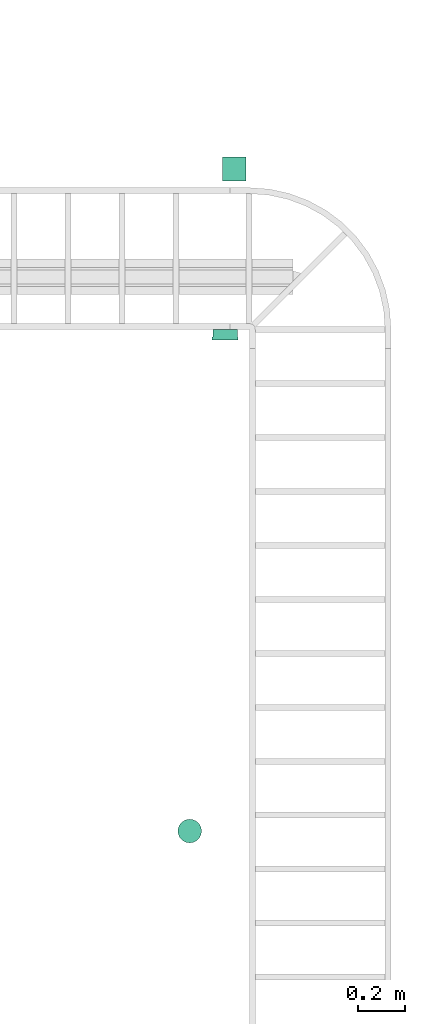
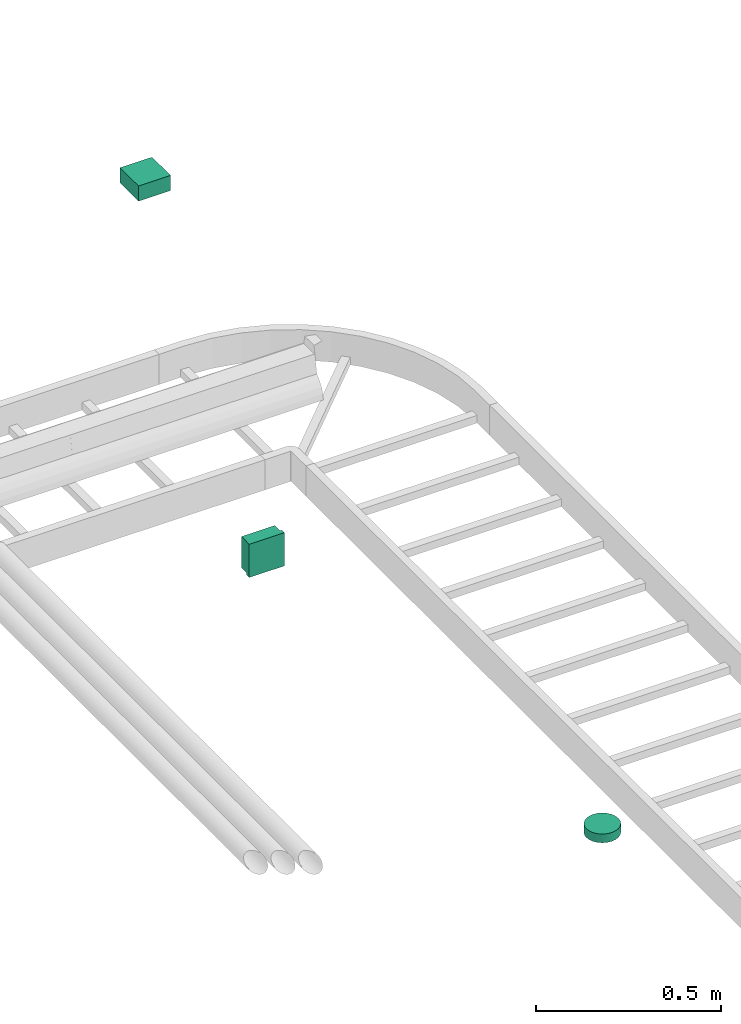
# One storey, part 2 of 14: 1 distribution control element, 1 flow fitting, 1 flow terminal.
"""IFC2X3 building model written with IfcOpenShell, lengths in millimetres."""

from ifc_helpers import new_model, entity, si_unit, converted_unit, derived_unit, direction, frame, origin_with_axes, place, context, subcontext, project, spatial, open_shell, surface_model, source, transform, mapped, type_object, element, save


model = new_model("IFC2X3")

# Units and contexts
model_context = context("Model", 3, precision=0.01, world=frame((0.0, 4.29681676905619e-09, 0.0)), true_north=direction((4.01073788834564e-13, 1.0)))
plan_context = context("Plan", 3, precision=0.01, world=frame((0.0, 4.29681676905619e-09, 0.0)), true_north=direction((4.01073788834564e-13, 1.0)))
body_context = subcontext(model_context, "Body", "Model", "MODEL_VIEW")
ifc_project = project(units=[converted_unit("PLANEANGLEUNIT", "DEGREE", entity("IfcPositiveLengthMeasure", 0.0174532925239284), si_unit("PLANEANGLEUNIT", "RADIAN"), dimensions=[0, 0, 0, 0, 0, 0, 0]), si_unit("AREAUNIT", "SQUARE_METRE"), si_unit("LENGTHUNIT", "METRE", prefix="MILLI"), si_unit("MASSUNIT", "GRAM", prefix="KILO"), si_unit("POWERUNIT", "WATT"), si_unit("PRESSUREUNIT", "PASCAL"), si_unit("FORCEUNIT", "NEWTON", prefix="KILO"), si_unit("ELECTRICVOLTAGEUNIT", "VOLT"), si_unit("ELECTRICCURRENTUNIT", "AMPERE"), si_unit("THERMODYNAMICTEMPERATUREUNIT", "DEGREE_CELSIUS"), si_unit("TIMEUNIT", "SECOND"), si_unit("VOLUMEUNIT", "CUBIC_METRE"), derived_unit("LINEARVELOCITYUNIT", [(si_unit("LENGTHUNIT", "METRE"), 1), (si_unit("TIMEUNIT", "SECOND"), -1)]), derived_unit("VOLUMETRICFLOWRATEUNIT", [(si_unit("VOLUMEUNIT", "CUBIC_METRE"), 1), (si_unit("TIMEUNIT", "SECOND"), -1)]), derived_unit("THERMALTRANSMITTANCEUNIT", [(si_unit("POWERUNIT", "WATT"), 1), (si_unit("THERMODYNAMICTEMPERATUREUNIT", "KELVIN"), -1), (si_unit("AREAUNIT", "SQUARE_METRE"), -1)]), derived_unit("SOUNDPRESSUREUNIT", [(si_unit("PRESSUREUNIT", "PASCAL"), 1)])], contexts=[model_context, plan_context])

# Site, building, storey
site_placement = place(None, frame((0.0, -4.29681676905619e-09, 0.0), z_axis=(0.0, 0.0, 1.0), x_axis=(1.0, 0.0, 0.0)))
site = spatial("IfcSite", under=ifc_project, at=site_placement, Name="ENGM", CompositionType="ELEMENT")
building_placement = place(site_placement, frame((0.0, 4.29681676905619e-09, 0.0), z_axis=(0.0, 0.0, 1.0), x_axis=(1.0, 0.0, 0.0)))
building = spatial("IfcBuilding", under=site, at=building_placement, Name="TH", CompositionType="ELEMENT")
storey_placement = place(building_placement, frame((0.0, 0.0, 205200.0), z_axis=(0.0, 0.0, 1.0), x_axis=(1.0, 0.0, 0.0)))
storey = spatial("IfcBuildingStorey", under=building, at=storey_placement, Name="Nivå D + 1,2 m", CompositionType="ELEMENT", Elevation=205200.0)

# Distribution control element
alarm_type = type_object("IfcAlarmType", Name="Optisk Røykdetektor", PredefinedType="NOTDEFINED")
shared_shape_1 = source(origin_with_axes(), body_context, "Body", "SurfaceModel", [
    surface_model("IfcShellBasedSurfaceModel", [(-25.0, 43.30127, -28.9), (-35.35534, 35.35534, -28.9), (-18.0, 31.17691, -28.9), (-25.45584, 25.45584, -28.9), (-9.31749, 34.77333, -28.9), (-12.94095, 48.29629, -28.9), (0.0, 36.0, -28.9), (0.0, 50.0, -28.9), (-34.77333, 9.31749, -28.9), (-43.30127, 25.0, -28.9), (-48.29629, 12.94095, -28.9), (-36.0, 0.0, -28.9), (-50.0, 0.0, -28.9), (-31.17691, 18.0, -28.9), (9.31749, 34.77333, -28.9), (12.94095, 48.29629, -28.9), (18.0, 31.17691, -28.9), (35.35534, 35.35534, -28.9), (25.0, 43.30127, -28.9), (25.45584, 25.45584, -28.9), (31.17691, 18.0, -28.9), (34.77333, 9.31749, -28.9), (43.30127, 25.0, -28.9), (48.29629, 12.94095, -28.9), (36.0, 0.0, -28.9), (50.0, 0.0, -28.9), (-34.77333, -9.31749, -28.9), (-48.29629, -12.94095, -28.9), (-31.17691, -18.0, -28.9), (-43.30127, -25.0, -28.9), (-25.45584, -25.45584, -28.9), (-35.35534, -35.35534, -28.9), (-18.0, -31.17691, -28.9), (-25.0, -43.30127, -28.9), (-9.31749, -34.77333, -28.9), (-12.94095, -48.29629, -28.9), (0.0, -36.0, -28.9), (0.0, -50.0, -28.9), (43.30127, -25.0, -28.9), (31.17691, -18.0, -28.9), (35.35534, -35.35534, -28.9), (34.77333, -9.31749, -28.9), (48.29629, -12.94095, -28.9), (25.45584, -25.45584, -28.9), (9.31749, -34.77333, -28.9), (12.94095, -48.29629, -28.9), (18.0, -31.17691, -28.9), (25.0, -43.30127, -28.9), (-25.0, -43.30127, -29.1), (-35.35534, -35.35534, -29.1), (-18.0, -31.17691, -29.1), (-25.45584, -25.45584, -29.1), (-9.31749, -34.77333, -29.1), (-12.94095, -48.29629, -29.1), (0.0, -36.0, -29.1), (0.0, -50.0, -29.1), (-34.77333, -9.31749, -29.1), (-43.30127, -25.0, -29.1), (-48.29629, -12.94095, -29.1), (-36.0, 0.0, -29.1), (-50.0, 0.0, -29.1), (-31.17691, -18.0, -29.1), (9.31749, -34.77333, -29.1), (12.94095, -48.29629, -29.1), (18.0, -31.17691, -29.1), (35.35534, -35.35534, -29.1), (25.0, -43.30127, -29.1), (25.45584, -25.45584, -29.1), (31.17691, -18.0, -29.1), (34.77333, -9.31749, -29.1), (43.30127, -25.0, -29.1), (48.29629, -12.94095, -29.1), (36.0, 0.0, -29.1), (50.0, 0.0, -29.1), (-34.77333, 9.31749, -29.1), (-48.29629, 12.94095, -29.1), (-31.17691, 18.0, -29.1), (-43.30127, 25.0, -29.1), (-25.45584, 25.45584, -29.1), (-35.35534, 35.35534, -29.1), (-18.0, 31.17691, -29.1), (-25.0, 43.30127, -29.1), (-9.31749, 34.77333, -29.1), (-12.94095, 48.29629, -29.1), (0.0, 36.0, -29.1), (0.0, 50.0, -29.1), (43.30127, 25.0, -29.1), (31.17691, 18.0, -29.1), (35.35534, 35.35534, -29.1), (34.77333, 9.31749, -29.1), (48.29629, 12.94095, -29.1), (25.45584, 25.45584, -29.1), (9.31749, 34.77333, -29.1), (12.94095, 48.29629, -29.1), (18.0, 31.17691, -29.1), (25.0, 43.30127, -29.1), (6.47048, -24.14815, -44.9), (12.5, -21.65064, -44.9), (17.67767, -17.67767, -44.9), (24.14815, -6.47048, -44.9), (-24.14815, -6.47048, -44.9), (21.65064, -12.5, -44.9), (-21.65064, 12.5, -44.9), (0.0, -25.0, -44.9), (-12.5, -21.65064, -44.9), (-6.47048, -24.14815, -44.9), (-17.67767, -17.67767, -44.9), (-21.65064, -12.5, -44.9), (25.0, 0.0, -44.9), (24.14815, 6.47048, -44.9), (21.65064, 12.5, -44.9), (17.67767, 17.67767, -44.9), (12.5, 21.65064, -44.9), (6.47048, 24.14815, -44.9), (0.0, 25.0, -44.9), (-25.0, 0.0, -44.9), (-24.14815, 6.47048, -44.9), (-12.5, 21.65064, -44.9), (-17.67767, 17.67767, -44.9), (-6.47048, 24.14815, -44.9), (0.0, 25.0, -45.1), (6.47048, 24.14815, -45.1), (12.5, 21.65064, -45.1), (-21.65064, 12.5, -45.1), (17.67767, 17.67767, -45.1), (21.65064, 12.5, -45.1), (24.14815, 6.47048, -45.1), (-12.5, 21.65064, -45.1), (-17.67767, 17.67767, -45.1), (-6.47048, 24.14815, -45.1), (-25.0, 0.0, -45.1), (-24.14815, 6.47048, -45.1), (-24.14815, -6.47048, -45.1), (24.14815, -6.47048, -45.1), (6.47048, -24.14815, -45.1), (21.65064, -12.5, -45.1), (17.67767, -17.67767, -45.1), (12.5, -21.65064, -45.1), (-12.5, -21.65064, -45.1), (-17.67767, -17.67767, -45.1), (-21.65064, -12.5, -45.1), (0.0, -25.0, -45.1), (-6.47048, -24.14815, -45.1), (25.0, 0.0, -45.1), (-1.46739, 34.60682, -29.0), (0.0, 34.8, -29.0), (0.0, 35.0, -29.0), (-34.60682, 1.46739, -29.0), (-35.0, 0.0, -29.0), (-34.8, 0.0, -29.0), (-17.5, 30.31089, -29.0), (-18.5742, 29.23669, -29.0), (-17.4, 30.13768, -29.0), (-24.60732, -24.60732, -29.0), (-18.5742, -29.23669, -29.0), (-29.23669, -18.5742, -29.0), (34.8, 0.0, -29.0), (34.60682, -1.46739, -29.0), (35.0, 0.0, -29.0), (17.4, 30.13768, -29.0), (17.5, 30.31089, -29.0), (16.03261, 30.70407, -29.0), (30.13768, 17.4, -29.0), (30.31089, 17.5, -29.0), (29.23669, 18.5742, -29.0), (34.60682, 1.46739, -29.0), (33.61422, -9.0069, -29.0), (30.70407, -16.03261, -29.0), (-33.61422, -9.0069, -29.0), (-30.70407, -16.03261, -29.0), (-34.60682, -1.46739, -29.0), (-30.13768, -17.4, -29.0), (-30.31089, -17.5, -29.0), (-17.5, -30.31089, -29.0), (-17.4, -30.13768, -29.0), (-1.46739, -34.60682, -29.0), (0.0, -35.0, -29.0), (0.0, -34.8, -29.0), (-16.03261, -30.70407, -29.0), (-9.0069, -33.61422, -29.0), (1.46739, -34.60682, -29.0), (30.13768, -17.4, -29.0), (29.23669, -18.5742, -29.0), (30.31089, -17.5, -29.0), (24.60732, -24.60732, -29.0), (18.5742, -29.23669, -29.0), (9.0069, -33.61422, -29.0), (16.03261, -30.70407, -29.0), (-30.13768, 17.4, -29.0), (-30.31089, 17.5, -29.0), (-30.70407, 16.03261, -29.0), (17.4, -30.13768, -29.0), (17.5, -30.31089, -29.0), (-33.61422, 9.0069, -29.0), (-29.23669, 18.5742, -29.0), (-24.60732, 24.60732, -29.0), (-16.03261, 30.70407, -29.0), (-9.0069, 33.61422, -29.0), (1.46739, 34.60682, -29.0), (9.0069, 33.61422, -29.0), (18.5742, 29.23669, -29.0), (24.60732, 24.60732, -29.0), (30.70407, 16.03261, -29.0), (33.61422, 9.0069, -29.0), (23.00389, 18.55381, -38.25), (14.9, 25.80756, -38.25), (21.07178, 21.07178, -38.25), (29.66376, 1.03484, -38.25), (30.0, 0.0, -38.25), (29.8, 0.0, -38.25), (24.27051, 17.63356, -38.25), (24.68215, 16.36666, -38.25), (10.52665, 27.61906, -38.25), (28.78459, 7.71281, -38.25), (-10.52665, 27.61906, -38.25), (-23.00389, 18.55381, -38.25), (-14.9, 25.80756, -38.25), (8.32335, 28.5317, -38.25), (0.0, 29.8, -38.25), (7.71281, 28.78459, -38.25), (-8.32335, 28.5317, -38.25), (-24.68215, 16.36666, -38.25), (-28.78459, 7.71281, -38.25), (-25.80756, 14.9, -38.25), (-9.27051, 28.5317, -38.25), (-29.66376, 1.03484, -38.25), (-29.8, 0.0, -38.25), (-30.0, 0.0, -38.25), (-28.78459, -7.71281, -38.25), (-24.68215, -16.36666, -38.25), (-25.80756, -14.9, -38.25), (29.66376, -1.03484, -38.25), (-7.71281, 28.78459, -38.25), (25.80756, 14.9, -38.25), (14.9, -25.80756, -38.25), (10.52665, -27.61906, -38.25), (23.00389, -18.55381, -38.25), (28.78459, -7.71281, -38.25), (24.68215, -16.36666, -38.25), (0.0, -29.8, -38.25), (-7.71281, -28.78459, -38.25), (-8.32335, -28.5317, -38.25), (8.32335, -28.5317, -38.25), (9.27051, 28.5317, -38.25), (-29.66376, -1.03484, -38.25), (21.07178, -21.07178, -38.25), (-23.00389, -18.55381, -38.25), (-24.27051, -17.63356, -38.25), (-9.27051, -28.5317, -38.25), (-10.52665, -27.61906, -38.25), (-21.07178, -21.07178, -38.25), (-14.9, -25.80756, -38.25), (9.27051, -28.5317, -38.25), (7.71281, -28.78459, -38.25), (24.27051, -17.63356, -38.25), (25.80756, -14.9, -38.25), (-21.07178, 21.07178, -38.25), (-24.27051, 17.63356, -38.25), (33.28589, -6.39713, -29.0), (27.13526, -8.81678, -38.25), (-16.77051, -23.08263, -38.25), (-23.90544, -23.90544, -29.0), (-27.13526, -8.81678, -38.25), (-33.28589, -6.39713, -29.0), (16.77051, -23.08263, -38.25), (8.75, -32.65544, -29.0), (0.0, -28.5317, -38.25), (23.90544, -23.90544, -29.0), (-8.75, -32.65544, -29.0), (-33.28589, 6.39713, -29.0), (-27.13526, 8.81678, -38.25), (16.77051, 23.08263, -38.25), (23.90544, 23.90544, -29.0), (27.13526, 8.81678, -38.25), (33.28589, 6.39713, -29.0), (-16.77051, 23.08263, -38.25), (-8.75, 32.65544, -29.0), (0.0, 28.5317, -38.25), (-23.90544, 23.90544, -29.0), (8.75, 32.65544, -29.0), (12.4, 21.47743, -45.0), (17.53625, 17.53625, -45.0), (19.07577, 15.5299, -45.0), (20.22543, 14.69463, -45.0), (20.59905, 13.54472, -45.0), (24.66376, 1.03484, -45.0), (25.0, 0.0, -45.0), (24.8, 0.0, -45.0), (8.88673, 22.93267, -45.0), (23.95496, 6.41871, -45.0), (-8.88673, 22.93267, -45.0), (-19.07577, 15.5299, -45.0), (-12.4, 21.47743, -45.0), (6.84976, 23.77641, -45.0), (0.0, 24.8, -45.0), (6.41871, 23.95496, -45.0), (-7.72542, 23.77641, -45.0), (-6.84976, 23.77641, -45.0), (-21.47743, 12.4, -45.0), (-20.59905, 13.54472, -45.0), (-23.95496, 6.41871, -45.0), (-25.0, 0.0, -45.0), (-24.66376, 1.03484, -45.0), (-24.8, 0.0, -45.0), (-23.95496, -6.41871, -45.0), (-20.59905, -13.54472, -45.0), (-21.47743, -12.4, -45.0), (-6.41871, 23.95496, -45.0), (24.66376, -1.03484, -45.0), (21.47743, 12.4, -45.0), (12.4, -21.47743, -45.0), (8.88673, -22.93267, -45.0), (19.07577, -15.5299, -45.0), (23.95496, -6.41871, -45.0), (20.59905, -13.54472, -45.0), (0.0, -24.8, -45.0), (-6.41871, -23.95496, -45.0), (-6.84976, -23.77641, -45.0), (7.72542, -23.77641, -45.0), (6.84976, -23.77641, -45.0), (7.72542, 23.77641, -45.0), (-24.66376, -1.03484, -45.0), (17.53625, -17.53625, -45.0), (-20.22543, -14.69463, -45.0), (-19.07577, -15.5299, -45.0), (-8.88673, -22.93267, -45.0), (-7.72542, -23.77641, -45.0), (-17.53625, -17.53625, -45.0), (-12.4, -21.47743, -45.0), (6.41871, -23.95496, -45.0), (20.22543, -14.69463, -45.0), (21.47743, -12.4, -45.0), (-17.53625, 17.53625, -45.0), (-20.22543, 14.69463, -45.0), (-22.61271, -7.34732, -45.0), (-13.97542, -19.23552, -45.0), (0.0, -23.77641, -45.0), (21.83768, -9.73262, -45.0), (13.97542, -19.23552, -45.0), (23.41884, -4.86631, -45.0), (22.61271, 7.34732, -45.0), (13.97542, 19.23552, -45.0), (0.0, 23.77641, -45.0), (-21.83768, 9.73262, -45.0), (-13.97542, 19.23552, -45.0), (-23.41884, 4.86631, -45.0), (12.94095, -48.29629, 0.0), (25.0, -43.30127, 0.0), (35.35534, -35.35534, 0.0), (48.29629, -12.94095, 0.0), (-48.29629, -12.94095, 0.0), (43.30127, -25.0, 0.0), (-43.30127, 25.0, 0.0), (0.0, -50.0, 0.0), (-25.0, -43.30127, 0.0), (-12.94095, -48.29629, 0.0), (-35.35534, -35.35534, 0.0), (-43.30127, -25.0, 0.0), (50.0, 0.0, 0.0), (48.29629, 12.94095, 0.0), (43.30127, 25.0, 0.0), (35.35534, 35.35534, 0.0), (25.0, 43.30127, 0.0), (12.94095, 48.29629, 0.0), (0.0, 50.0, 0.0), (-50.0, 0.0, 0.0), (-48.29629, 12.94095, 0.0), (-25.0, 43.30127, 0.0), (-35.35534, 35.35534, 0.0), (-12.94095, 48.29629, 0.0), (0.0, 50.0, -29.0), (12.94095, 48.29629, -29.0), (25.0, 43.30127, -29.0), (-43.30127, 25.0, -29.0), (35.35534, 35.35534, -29.0), (43.30127, 25.0, -29.0), (48.29629, 12.94095, -29.0), (-25.0, 43.30127, -29.0), (-35.35534, 35.35534, -29.0), (-12.94095, 48.29629, -29.0), (-50.0, 0.0, -29.0), (-48.29629, 12.94095, -29.0), (-48.29629, -12.94095, -29.0), (48.29629, -12.94095, -29.0), (12.94095, -48.29629, -29.0), (43.30127, -25.0, -29.0), (35.35534, -35.35534, -29.0), (25.0, -43.30127, -29.0), (-25.0, -43.30127, -29.0), (-35.35534, -35.35534, -29.0), (-43.30127, -25.0, -29.0), (0.0, -50.0, -29.0), (-12.94095, -48.29629, -29.0), (50.0, 0.0, -29.0)], [open_shell([[[0, 1, 2]], [[2, 1, 3]], [[0, 2, 4]], [[5, 4, 6]], [[4, 5, 0]], [[5, 6, 7]], [[8, 9, 10]], [[11, 10, 12]], [[8, 10, 11]], [[13, 3, 9]], [[8, 13, 9]], [[9, 3, 1]], [[7, 14, 15]], [[14, 7, 6]], [[15, 14, 16]], [[17, 18, 19]], [[16, 18, 15]], [[19, 18, 16]], [[20, 21, 22]], [[20, 22, 17]], [[21, 23, 22]], [[23, 21, 24]], [[23, 24, 25]], [[20, 17, 19]], [[26, 12, 27]], [[28, 27, 29]], [[28, 26, 27]], [[30, 28, 29]], [[29, 31, 30]], [[32, 31, 33]], [[31, 32, 30]], [[32, 33, 34]], [[34, 35, 36]], [[35, 34, 33]], [[36, 35, 37]], [[38, 39, 40]], [[41, 39, 42]], [[41, 42, 25]], [[42, 39, 38]], [[39, 43, 40]], [[25, 24, 41]], [[44, 37, 45]], [[37, 44, 36]], [[44, 45, 46]], [[47, 40, 43]], [[47, 46, 45]], [[47, 43, 46]], [[26, 11, 12]], [[48, 49, 50]], [[50, 49, 51]], [[48, 50, 52]], [[53, 52, 54]], [[52, 53, 48]], [[53, 54, 55]], [[56, 57, 58]], [[59, 58, 60]], [[56, 58, 59]], [[61, 51, 57]], [[56, 61, 57]], [[57, 51, 49]], [[55, 62, 63]], [[62, 55, 54]], [[63, 62, 64]], [[65, 66, 67]], [[64, 66, 63]], [[67, 66, 64]], [[68, 69, 70]], [[68, 70, 65]], [[69, 71, 70]], [[71, 69, 72]], [[71, 72, 73]], [[68, 65, 67]], [[74, 60, 75]], [[76, 75, 77]], [[76, 74, 75]], [[78, 76, 77]], [[77, 79, 78]], [[80, 79, 81]], [[79, 80, 78]], [[80, 81, 82]], [[82, 83, 84]], [[83, 82, 81]], [[84, 83, 85]], [[86, 87, 88]], [[89, 87, 90]], [[89, 90, 73]], [[90, 87, 86]], [[87, 91, 88]], [[73, 72, 89]], [[92, 85, 93]], [[85, 92, 84]], [[92, 93, 94]], [[95, 88, 91]], [[95, 94, 93]], [[95, 91, 94]], [[74, 59, 60]], [[11, 59, 8]], [[8, 74, 13]], [[2, 3, 78]], [[76, 3, 13]], [[4, 2, 80]], [[74, 76, 13]], [[8, 59, 74]], [[84, 6, 82]], [[4, 80, 82]], [[80, 2, 78]], [[3, 76, 78]], [[4, 82, 6]], [[14, 92, 16]], [[16, 94, 19]], [[21, 20, 87]], [[91, 20, 19]], [[24, 21, 89]], [[92, 94, 16]], [[14, 84, 92]], [[21, 87, 89]], [[87, 20, 91]], [[19, 94, 91]], [[24, 89, 72]], [[6, 84, 14]], [[24, 72, 41]], [[41, 69, 39]], [[46, 43, 67]], [[68, 43, 39]], [[44, 46, 64]], [[69, 68, 39]], [[41, 72, 69]], [[54, 36, 62]], [[44, 64, 62]], [[64, 46, 67]], [[43, 68, 67]], [[44, 62, 36]], [[34, 52, 32]], [[32, 50, 30]], [[26, 28, 61]], [[51, 28, 30]], [[11, 26, 56]], [[52, 50, 32]], [[34, 54, 52]], [[26, 61, 56]], [[61, 28, 51]], [[30, 50, 51]], [[11, 56, 59]], [[36, 54, 34]], [[58, 27, 60]], [[57, 29, 58]], [[33, 49, 48]], [[57, 49, 31]], [[35, 48, 53]], [[58, 29, 27]], [[27, 12, 60]], [[35, 33, 48]], [[31, 49, 33]], [[31, 29, 57]], [[37, 35, 53]], [[53, 55, 37]], [[63, 45, 55]], [[66, 47, 63]], [[38, 65, 70]], [[66, 65, 40]], [[42, 70, 71]], [[66, 40, 47]], [[47, 45, 63]], [[25, 42, 71]], [[38, 70, 42]], [[38, 40, 65]], [[73, 25, 71]], [[55, 45, 37]], [[90, 23, 73]], [[86, 22, 90]], [[18, 88, 95]], [[86, 88, 17]], [[15, 95, 93]], [[90, 22, 23]], [[23, 25, 73]], [[15, 18, 95]], [[17, 88, 18]], [[17, 22, 86]], [[7, 15, 93]], [[93, 85, 7]], [[83, 5, 85]], [[81, 0, 83]], [[9, 79, 77]], [[81, 79, 1]], [[10, 77, 75]], [[81, 1, 0]], [[0, 5, 83]], [[12, 10, 75]], [[9, 77, 10]], [[9, 1, 79]], [[60, 12, 75]], [[85, 5, 7]], [[96, 97, 98]], [[96, 98, 99]], [[96, 99, 100]], [[99, 98, 101]], [[102, 100, 99]], [[103, 104, 105]], [[103, 96, 104]], [[106, 100, 107]], [[106, 104, 96]], [[100, 106, 96]], [[99, 108, 102]], [[109, 110, 111]], [[109, 111, 112]], [[112, 113, 114]], [[109, 112, 102]], [[102, 112, 114]], [[115, 102, 116]], [[100, 102, 115]], [[102, 117, 118]], [[117, 102, 119]], [[114, 119, 102]], [[102, 108, 109]], [[120, 121, 122]], [[123, 120, 122]], [[124, 125, 126]], [[124, 126, 122]], [[123, 122, 126]], [[127, 123, 128]], [[123, 127, 129]], [[123, 130, 131]], [[123, 129, 120]], [[123, 132, 130]], [[123, 126, 133]], [[132, 123, 133]], [[134, 133, 135]], [[136, 137, 134]], [[136, 134, 135]], [[138, 133, 134]], [[132, 139, 140]], [[132, 133, 139]], [[138, 141, 142]], [[139, 133, 138]], [[134, 141, 138]], [[133, 126, 143]], [[132, 100, 130]], [[140, 107, 132]], [[104, 139, 138]], [[140, 139, 106]], [[105, 138, 142]], [[132, 107, 100]], [[100, 115, 130]], [[105, 104, 138]], [[106, 139, 104]], [[106, 107, 140]], [[103, 105, 142]], [[142, 141, 103]], [[134, 96, 141]], [[137, 97, 134]], [[101, 136, 135]], [[137, 136, 98]], [[99, 135, 133]], [[137, 98, 97]], [[97, 96, 134]], [[108, 99, 133]], [[101, 135, 99]], [[101, 98, 136]], [[143, 108, 133]], [[141, 96, 103]], [[126, 109, 143]], [[125, 110, 126]], [[112, 124, 122]], [[125, 124, 111]], [[113, 122, 121]], [[126, 110, 109]], [[109, 108, 143]], [[113, 112, 122]], [[111, 124, 112]], [[111, 110, 125]], [[114, 113, 121]], [[121, 120, 114]], [[129, 119, 120]], [[127, 117, 129]], [[102, 128, 123]], [[127, 128, 118]], [[116, 123, 131]], [[127, 118, 117]], [[117, 119, 129]], [[115, 116, 131]], [[102, 123, 116]], [[102, 118, 128]], [[130, 115, 131]], [[120, 119, 114]], [[144, 145, 146]], [[147, 148, 149]], [[150, 151, 152]], [[153, 154, 155]], [[156, 157, 158]], [[159, 160, 161]], [[162, 163, 164]], [[156, 158, 165]], [[166, 157, 167]], [[168, 169, 170]], [[170, 149, 148]], [[171, 169, 172]], [[173, 174, 154]], [[175, 176, 177]], [[174, 173, 178]], [[155, 171, 172]], [[179, 175, 178]], [[180, 177, 176]], [[181, 182, 183]], [[181, 183, 167]], [[184, 182, 185]], [[186, 187, 180]], [[188, 189, 190]], [[191, 192, 185]], [[191, 187, 192]], [[193, 147, 190]], [[188, 194, 189]], [[195, 194, 151]], [[152, 196, 150]], [[197, 196, 144]], [[145, 198, 146]], [[199, 198, 161]], [[159, 200, 160]], [[201, 200, 164]], [[162, 202, 163]], [[203, 202, 165]], [[204, 205, 206]], [[207, 208, 209]], [[204, 210, 211]], [[205, 204, 212]], [[213, 207, 211]], [[214, 215, 216]], [[217, 218, 219]], [[218, 217, 220]], [[221, 222, 223]], [[220, 214, 224]], [[225, 226, 227]], [[228, 229, 230]], [[209, 208, 231]], [[218, 220, 232]], [[213, 211, 233]], [[234, 235, 236]], [[237, 238, 231]], [[239, 240, 241]], [[241, 242, 239]], [[243, 212, 217]], [[227, 226, 244]], [[234, 236, 245]], [[229, 246, 247]], [[241, 248, 249]], [[250, 246, 251]], [[228, 244, 229]], [[235, 252, 242]], [[239, 242, 253]], [[236, 238, 254]], [[238, 237, 255]], [[251, 246, 249]], [[216, 215, 256]], [[215, 221, 257]], [[222, 221, 225]], [[208, 158, 258]], [[183, 259, 258]], [[260, 261, 247]], [[172, 262, 247]], [[263, 227, 262]], [[192, 252, 264]], [[260, 248, 173]], [[261, 260, 173]], [[252, 265, 266]], [[227, 263, 148]], [[172, 263, 262]], [[258, 259, 208]], [[254, 267, 264]], [[268, 173, 248]], [[252, 192, 265]], [[192, 264, 267]], [[267, 254, 183]], [[259, 183, 254]], [[268, 266, 176]], [[265, 176, 266]], [[248, 266, 268]], [[172, 247, 261]], [[227, 148, 269]], [[189, 270, 269]], [[271, 272, 210]], [[163, 273, 210]], [[274, 208, 273]], [[150, 224, 275]], [[271, 243, 160]], [[272, 271, 160]], [[224, 276, 277]], [[208, 274, 158]], [[163, 274, 273]], [[269, 270, 227]], [[257, 278, 275]], [[279, 160, 243]], [[224, 150, 276]], [[150, 275, 278]], [[278, 257, 189]], [[270, 189, 257]], [[279, 277, 146]], [[276, 146, 277]], [[243, 277, 279]], [[163, 210, 272]], [[171, 230, 228]], [[168, 228, 226]], [[179, 240, 251]], [[174, 251, 250]], [[153, 250, 230]], [[168, 171, 228]], [[226, 149, 168]], [[251, 174, 179]], [[174, 250, 153]], [[230, 171, 153]], [[240, 179, 177]], [[177, 239, 240]], [[184, 245, 234]], [[191, 234, 253]], [[156, 209, 237]], [[166, 237, 255]], [[181, 255, 245]], [[239, 186, 253]], [[186, 191, 253]], [[177, 186, 239]], [[184, 181, 245]], [[191, 184, 234]], [[181, 166, 255]], [[166, 156, 237]], [[162, 233, 213]], [[203, 213, 209]], [[199, 219, 205]], [[159, 205, 206]], [[201, 206, 233]], [[203, 162, 213]], [[209, 156, 203]], [[205, 159, 199]], [[159, 206, 201]], [[233, 162, 201]], [[219, 199, 145]], [[145, 218, 219]], [[195, 256, 216]], [[152, 216, 232]], [[149, 226, 222]], [[193, 222, 223]], [[188, 223, 256]], [[218, 197, 232]], [[197, 152, 232]], [[145, 197, 218]], [[195, 188, 256]], [[152, 195, 216]], [[188, 193, 223]], [[193, 149, 222]], [[215, 216, 256]], [[221, 222, 225]], [[225, 227, 226]], [[257, 221, 215]], [[216, 215, 214]], [[212, 204, 205]], [[220, 218, 232]], [[218, 220, 217]], [[217, 212, 243]], [[233, 211, 213]], [[208, 207, 209]], [[237, 238, 255]], [[252, 235, 242]], [[218, 217, 219]], [[227, 244, 226]], [[222, 221, 223]], [[228, 229, 244]], [[239, 253, 242]], [[246, 251, 249]], [[249, 248, 241]], [[231, 238, 237]], [[208, 209, 231]], [[251, 246, 250]], [[254, 238, 236]], [[236, 234, 245]], [[214, 220, 224]], [[242, 241, 239]], [[239, 241, 240]], [[246, 229, 247]], [[230, 229, 228]], [[234, 236, 235]], [[205, 204, 206]], [[204, 211, 210]], [[213, 211, 207]], [[280, 281, 282]], [[282, 283, 284]], [[285, 286, 287]], [[280, 282, 288]], [[289, 285, 284]], [[290, 291, 292]], [[293, 294, 295]], [[290, 296, 297]], [[294, 293, 297]], [[298, 299, 300]], [[301, 302, 303]], [[304, 305, 306]], [[294, 297, 307]], [[308, 287, 286]], [[289, 284, 309]], [[310, 311, 312]], [[313, 314, 308]], [[315, 316, 317]], [[311, 318, 319]], [[293, 320, 288]], [[301, 303, 321]], [[310, 312, 322]], [[323, 305, 324]], [[325, 317, 326]], [[327, 324, 328]], [[304, 321, 305]], [[317, 319, 315]], [[315, 319, 329]], [[312, 314, 330]], [[331, 314, 313]], [[328, 324, 325]], [[292, 291, 332]], [[291, 299, 333]], [[300, 299, 302]], [[262, 301, 334]], [[334, 323, 247]], [[248, 335, 326]], [[301, 262, 227]], [[334, 247, 262]], [[260, 323, 335]], [[266, 248, 326]], [[336, 252, 266]], [[252, 336, 318]], [[323, 260, 247]], [[248, 260, 335]], [[254, 337, 259]], [[318, 264, 252]], [[338, 254, 264]], [[339, 286, 208]], [[264, 318, 338]], [[259, 339, 208]], [[338, 330, 254]], [[266, 326, 336]], [[259, 337, 339]], [[337, 254, 330]], [[273, 286, 340]], [[340, 283, 210]], [[243, 341, 320]], [[286, 273, 208]], [[340, 210, 273]], [[271, 283, 341]], [[277, 243, 320]], [[342, 224, 277]], [[224, 342, 296]], [[283, 271, 210]], [[243, 271, 341]], [[257, 343, 270]], [[296, 275, 224]], [[344, 257, 275]], [[345, 301, 227]], [[275, 296, 344]], [[270, 345, 227]], [[344, 333, 257]], [[277, 320, 342]], [[270, 343, 345]], [[343, 257, 333]], [[230, 306, 304]], [[228, 304, 303]], [[240, 316, 328]], [[251, 328, 327]], [[250, 327, 306]], [[228, 230, 304]], [[303, 226, 228]], [[328, 251, 240]], [[251, 327, 250]], [[306, 230, 250]], [[316, 240, 239]], [[239, 315, 316]], [[245, 322, 310]], [[234, 310, 329]], [[209, 287, 313]], [[237, 313, 331]], [[255, 331, 322]], [[315, 253, 329]], [[253, 234, 329]], [[239, 253, 315]], [[255, 322, 245]], [[234, 245, 310]], [[331, 255, 237]], [[237, 209, 313]], [[233, 309, 289]], [[213, 289, 287]], [[219, 295, 280]], [[205, 280, 281]], [[206, 281, 309]], [[213, 233, 289]], [[287, 209, 213]], [[280, 205, 219]], [[205, 281, 206]], [[309, 233, 206]], [[295, 219, 218]], [[218, 294, 295]], [[256, 332, 292]], [[216, 292, 307]], [[226, 303, 300]], [[222, 300, 298]], [[223, 298, 332]], [[294, 232, 307]], [[232, 216, 307]], [[218, 232, 294]], [[223, 332, 256]], [[216, 256, 292]], [[298, 223, 222]], [[222, 226, 300]], [[346, 347, 348]], [[346, 348, 349]], [[346, 349, 350]], [[349, 348, 351]], [[352, 350, 349]], [[353, 354, 355]], [[353, 346, 354]], [[356, 350, 357]], [[356, 354, 346]], [[350, 356, 346]], [[349, 358, 352]], [[359, 360, 361]], [[359, 361, 362]], [[362, 363, 364]], [[359, 362, 352]], [[352, 362, 364]], [[365, 352, 366]], [[350, 352, 365]], [[352, 367, 368]], [[367, 352, 369]], [[364, 369, 352]], [[352, 358, 359]], [[370, 371, 372]], [[373, 370, 372]], [[374, 375, 376]], [[374, 376, 372]], [[373, 372, 376]], [[377, 373, 378]], [[373, 377, 379]], [[373, 380, 381]], [[373, 379, 370]], [[373, 382, 380]], [[373, 376, 383]], [[382, 373, 383]], [[384, 383, 385]], [[386, 387, 384]], [[386, 384, 385]], [[388, 383, 384]], [[382, 389, 390]], [[382, 383, 389]], [[388, 391, 392]], [[389, 383, 388]], [[384, 391, 388]], [[383, 376, 393]], [[382, 350, 380]], [[390, 357, 382]], [[354, 389, 388]], [[390, 389, 356]], [[355, 388, 392]], [[382, 357, 350]], [[350, 365, 380]], [[355, 354, 388]], [[356, 389, 354]], [[356, 357, 390]], [[353, 355, 392]], [[392, 391, 353]], [[384, 346, 391]], [[387, 347, 384]], [[351, 386, 385]], [[387, 386, 348]], [[349, 385, 383]], [[387, 348, 347]], [[347, 346, 384]], [[358, 349, 383]], [[351, 385, 349]], [[351, 348, 386]], [[393, 358, 383]], [[391, 346, 353]], [[376, 359, 393]], [[375, 360, 376]], [[362, 374, 372]], [[375, 374, 361]], [[363, 372, 371]], [[376, 360, 359]], [[359, 358, 393]], [[363, 362, 372]], [[361, 374, 362]], [[361, 360, 375]], [[364, 363, 371]], [[371, 370, 364]], [[369, 370, 379]], [[367, 379, 377]], [[352, 373, 381]], [[366, 381, 380]], [[379, 367, 369]], [[367, 377, 378]], [[367, 378, 368]], [[368, 378, 352]], [[352, 378, 373]], [[352, 381, 366]], [[380, 365, 366]], [[370, 369, 364]]])]),
])
distribution_control_element_placement = place(storey_placement, frame((900252.56798, 478750.74751, 4540.0), z_axis=(0.0, 0.0, 1.0), x_axis=(1.0, 0.0, 0.0)))
element("IfcDistributionControlElement", 1, at=distribution_control_element_placement, inside=storey, type_object=alarm_type, Name="Optisk røykdetektor", context=body_context, shape_type="MappedRepresentation", body=[
    mapped(shared_shape_1, transform((0.0, 0.0, 0.0), scale=1.0)),
])

# Flow fitting
junction_box_type = type_object("IfcJunctionBoxType", Name="Koblingsboks åpen", PredefinedType="NOTDEFINED")
shared_shape_2 = source(origin_with_axes(), body_context, "Body", "SurfaceModel", [
    surface_model("IfcShellBasedSurfaceModel", [(-55.0, 46.0, 55.0), (-55.0, 32.2, 55.0), (55.0, 32.2, 55.0), (55.0, 46.0, 55.0), (55.0, 46.0, -55.0), (55.0, 32.2, -55.0), (-55.0, 32.2, -55.0), (-55.0, 46.0, -55.0), (-52.0, 32.2, 52.0), (-52.0, 0.0, 52.0), (52.0, 0.0, 52.0), (52.0, 32.2, 52.0), (52.0, 32.2, -52.0), (52.0, 0.0, -52.0), (-52.0, 0.0, -52.0), (-52.0, 32.2, -52.0)], [open_shell([[[0, 1, 2]], [[2, 3, 0]], [[4, 5, 6]], [[6, 7, 4]], [[2, 1, 6]], [[6, 5, 2]], [[3, 2, 5]], [[5, 4, 3]], [[0, 3, 4]], [[4, 7, 0]], [[1, 0, 7]], [[7, 6, 1]], [[8, 9, 10]], [[10, 11, 8]], [[12, 13, 14]], [[14, 15, 12]], [[10, 9, 14]], [[14, 13, 10]], [[11, 10, 13]], [[13, 12, 11]], [[8, 11, 12]], [[12, 15, 8]], [[9, 8, 15]], [[15, 14, 9]]])]),
])
flow_fitting_placement = place(storey_placement, frame((900402.39713, 480875.0, 4115.0), z_axis=(0.0, 0.0, 1.0), x_axis=(-1.0, 0.0, 0.0)))
element("IfcFlowFitting", 2, at=flow_fitting_placement, inside=storey, type_object=junction_box_type, Name="Koblingsboks åpen", context=body_context, shape_type="MappedRepresentation", body=[
    mapped(shared_shape_2, transform((0.0, 0.0, 0.0), scale=1.0)),
])

# Flow terminal
electric_appliance_type = type_object("IfcElectricApplianceType", Name="Motorstyrt ventil", PredefinedType="NOTDEFINED")
shared_shape_3 = source(origin_with_axes(), body_context, "Body", "SurfaceModel", [
    surface_model("IfcShellBasedSurfaceModel", [(50.0, -50.0, 50.0), (50.0, 50.0, 50.0), (-50.0, 50.0, 50.0), (-50.0, -50.0, 50.0), (-50.0, -50.0, 0.0), (-50.0, 50.0, 0.0), (50.0, 50.0, 0.0), (50.0, -50.0, 0.0)], [open_shell([[[0, 1, 2]], [[2, 3, 0]], [[4, 5, 6]], [[6, 7, 4]], [[2, 1, 6]], [[6, 5, 2]], [[3, 2, 5]], [[5, 4, 3]], [[0, 3, 4]], [[4, 7, 0]], [[1, 0, 7]], [[7, 6, 1]]])]),
])
flow_terminal_placement = place(storey_placement, frame((900441.28869, 481554.17826, 4880.29045999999), z_axis=(0.0, 0.0, 1.0), x_axis=(1.0, 0.0, 0.0)))
element("IfcFlowTerminal", 3, at=flow_terminal_placement, inside=storey, type_object=electric_appliance_type, Name="Motorstyrt ventil", context=body_context, shape_type="MappedRepresentation", body=[
    mapped(shared_shape_3, transform((0.0, 0.0, 0.0), scale=1.0)),
])

save(model, "model.ifc")
